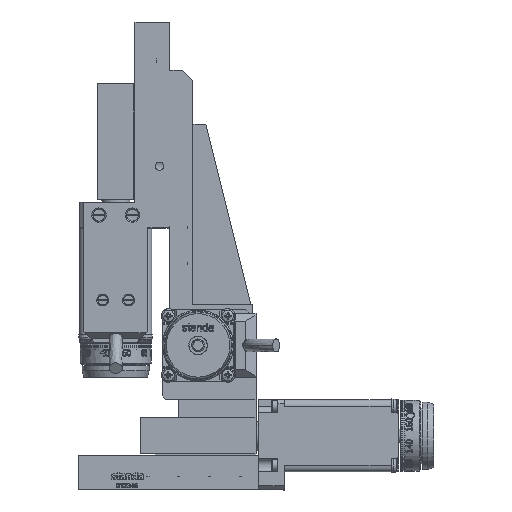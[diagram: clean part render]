
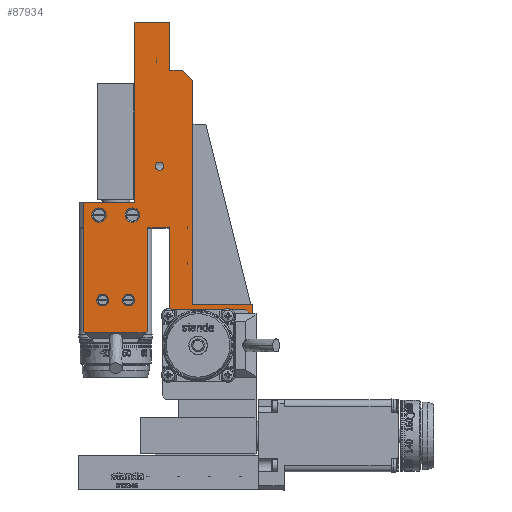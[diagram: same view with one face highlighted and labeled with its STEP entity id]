
A CAD part, top view. The second image highlights one B-rep face of the part: STEP entity #87934.
In plain terms, the highlighted planar face has unit normal (0, 0, 1).
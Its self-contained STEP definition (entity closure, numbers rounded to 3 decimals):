
#6713=LINE($,#115564,#13249);
#6765=LINE($,#115862,#13301);
#7026=LINE($,#118856,#13562);
#7383=LINE($,#120470,#13919);
#7393=LINE($,#120487,#13929);
#7401=LINE($,#120587,#13937);
#7404=LINE($,#120592,#13940);
#7406=LINE($,#120596,#13942);
#7408=LINE($,#120599,#13944);
#8753=LINE($,#195012,#15289);
#8783=LINE($,#195134,#15319);
#10865=LINE($,#274888,#17401);
#10893=LINE($,#275011,#17429);
#10900=LINE($,#275030,#17436);
#10901=LINE($,#275033,#17437);
#10902=LINE($,#275035,#17438);
#10903=LINE($,#275037,#17439);
#10904=LINE($,#275038,#17440);
#13249=VECTOR($,#96226,70.);
#13301=VECTOR($,#96398,13.5);
#13562=VECTOR($,#97719,18.75);
#13919=VECTOR($,#98468,23.619);
#13929=VECTOR($,#98480,8.5);
#13937=VECTOR($,#98532,50.);
#13940=VECTOR($,#98537,0.977);
#13942=VECTOR($,#98541,40.);
#13944=VECTOR($,#98545,0.977);
#15289=VECTOR($,#102094,20.);
#15319=VECTOR($,#102194,28.);
#17401=VECTOR($,#108182,4.);
#17429=VECTOR($,#108266,38.75);
#17436=VECTOR($,#108283,5.);
#17437=VECTOR($,#108286,5.657);
#17438=VECTOR($,#108287,9.);
#17439=VECTOR($,#108288,23.);
#17440=VECTOR($,#108289,87.);
#21468=PLANE($,#93737);
#22905=FACE_BOUND($,#31637,.T.);
#22906=FACE_BOUND($,#31638,.T.);
#22907=FACE_BOUND($,#31639,.T.);
#22908=FACE_BOUND($,#31640,.T.);
#22909=FACE_BOUND($,#31641,.T.);
#22910=FACE_BOUND($,#31642,.T.);
#31637=EDGE_LOOP($,(#75151));
#31638=EDGE_LOOP($,(#75152));
#31639=EDGE_LOOP($,(#75153));
#31640=EDGE_LOOP($,(#75154));
#31641=EDGE_LOOP($,(#75155));
#31642=EDGE_LOOP($,(#75156,#75157,#75158,#75159,#75160,#75161,#75162,#75163,
#75164,#75165,#75166,#75167,#75168,#75169,#75170,#75171,#75172,#75173));
#34005=CIRCLE($,#90398,1.621);
#34053=CIRCLE($,#90595,2.8);
#34054=CIRCLE($,#90597,2.8);
#34059=CIRCLE($,#90603,2.3);
#34064=CIRCLE($,#90609,2.3);
#36061=VERTEX_POINT($,#115561);
#36062=VERTEX_POINT($,#115563);
#36134=VERTEX_POINT($,#115861);
#36607=VERTEX_POINT($,#118853);
#36612=VERTEX_POINT($,#118901);
#36934=VERTEX_POINT($,#120466);
#36936=VERTEX_POINT($,#120469);
#36941=VERTEX_POINT($,#120484);
#36942=VERTEX_POINT($,#120486);
#36955=VERTEX_POINT($,#120524);
#36956=VERTEX_POINT($,#120527);
#36965=VERTEX_POINT($,#120554);
#36974=VERTEX_POINT($,#120581);
#36975=VERTEX_POINT($,#120584);
#36976=VERTEX_POINT($,#120586);
#36978=VERTEX_POINT($,#120595);
#38872=VERTEX_POINT($,#195131);
#38873=VERTEX_POINT($,#195133);
#41693=VERTEX_POINT($,#274887);
#41731=VERTEX_POINT($,#275028);
#41732=VERTEX_POINT($,#275032);
#41733=VERTEX_POINT($,#275034);
#41734=VERTEX_POINT($,#275036);
#44957=EDGE_CURVE($,#36061,#36062,#6713,.T.);
#45052=EDGE_CURVE($,#36134,#36062,#6765,.T.);
#45781=EDGE_CURVE($,#36134,#36607,#7026,.T.);
#45786=EDGE_CURVE($,#36612,#36612,#34005,.T.);
#46277=EDGE_CURVE($,#36936,#36934,#7383,.T.);
#46287=EDGE_CURVE($,#36942,#36941,#7393,.T.);
#46302=EDGE_CURVE($,#36955,#36955,#34053,.T.);
#46303=EDGE_CURVE($,#36956,#36956,#34054,.T.);
#46312=EDGE_CURVE($,#36965,#36965,#34059,.T.);
#46321=EDGE_CURVE($,#36974,#36974,#34064,.T.);
#46323=EDGE_CURVE($,#36975,#36976,#7401,.T.);
#46326=EDGE_CURVE($,#36936,#36975,#7404,.T.);
#46328=EDGE_CURVE($,#36942,#36978,#7406,.T.);
#46330=EDGE_CURVE($,#36978,#36934,#7408,.T.);
#49128=EDGE_CURVE($,#36061,#36976,#8753,.T.);
#49175=EDGE_CURVE($,#38872,#38873,#8783,.T.);
#53414=EDGE_CURVE($,#38873,#41693,#10865,.T.);
#53461=EDGE_CURVE($,#36941,#41693,#10893,.T.);
#53471=EDGE_CURVE($,#36607,#41731,#10900,.T.);
#53472=EDGE_CURVE($,#41731,#41732,#10901,.T.);
#53473=EDGE_CURVE($,#38872,#41733,#10902,.T.);
#53474=EDGE_CURVE($,#41734,#41733,#10903,.T.);
#53475=EDGE_CURVE($,#41732,#41734,#10904,.T.);
#75151=ORIENTED_EDGE($,*,*,#46321,.T.);
#75152=ORIENTED_EDGE($,*,*,#46312,.T.);
#75153=ORIENTED_EDGE($,*,*,#46303,.T.);
#75154=ORIENTED_EDGE($,*,*,#46302,.T.);
#75155=ORIENTED_EDGE($,*,*,#45786,.T.);
#75156=ORIENTED_EDGE($,*,*,#53472,.F.);
#75157=ORIENTED_EDGE($,*,*,#53471,.F.);
#75158=ORIENTED_EDGE($,*,*,#45781,.F.);
#75159=ORIENTED_EDGE($,*,*,#45052,.T.);
#75160=ORIENTED_EDGE($,*,*,#44957,.F.);
#75161=ORIENTED_EDGE($,*,*,#49128,.T.);
#75162=ORIENTED_EDGE($,*,*,#46323,.F.);
#75163=ORIENTED_EDGE($,*,*,#46326,.F.);
#75164=ORIENTED_EDGE($,*,*,#46277,.T.);
#75165=ORIENTED_EDGE($,*,*,#46330,.F.);
#75166=ORIENTED_EDGE($,*,*,#46328,.F.);
#75167=ORIENTED_EDGE($,*,*,#46287,.T.);
#75168=ORIENTED_EDGE($,*,*,#53461,.T.);
#75169=ORIENTED_EDGE($,*,*,#53414,.F.);
#75170=ORIENTED_EDGE($,*,*,#49175,.F.);
#75171=ORIENTED_EDGE($,*,*,#53473,.T.);
#75172=ORIENTED_EDGE($,*,*,#53474,.F.);
#75173=ORIENTED_EDGE($,*,*,#53475,.F.);
#87934=ADVANCED_FACE($,(#22905,#22906,#22907,#22908,#22909,#22910),#21468,
 .T.);
#90398=AXIS2_PLACEMENT_3D($,#118902,#97732,#97733);
#90595=AXIS2_PLACEMENT_3D($,#120525,#98499,#98500);
#90597=AXIS2_PLACEMENT_3D($,#120528,#98503,#98504);
#90603=AXIS2_PLACEMENT_3D($,#120555,#98515,#98516);
#90609=AXIS2_PLACEMENT_3D($,#120582,#98527,#98528);
#93737=AXIS2_PLACEMENT_3D($,#275031,#108284,#108285);
#96226=DIRECTION($,(0.,1.,0.));
#96398=DIRECTION($,(-1.,0.,0.));
#97719=DIRECTION($,(0.,-1.,0.));
#97732=DIRECTION('center_axis',(0.,0.,
-1.));
#97733=DIRECTION('ref_axis',(0.,-1.,0.));
#98468=DIRECTION($,(1.,0.,0.));
#98480=DIRECTION($,(1.,0.,0.));
#98499=DIRECTION('center_axis',(0.,0.,
-1.));
#98500=DIRECTION('ref_axis',(0.,-1.,0.));
#98503=DIRECTION('center_axis',(0.,0.,
-1.));
#98504=DIRECTION('ref_axis',(0.,-1.,0.));
#98515=DIRECTION('center_axis',(0.,0.,
-1.));
#98516=DIRECTION('ref_axis',(0.,-1.,0.));
#98527=DIRECTION('center_axis',(0.,0.,
-1.));
#98528=DIRECTION('ref_axis',(0.,-1.,0.));
#98532=DIRECTION($,(0.,1.,0.));
#98537=DIRECTION($,(-0.707,0.707,0.));
#98541=DIRECTION($,(0.,-1.,0.));
#98545=DIRECTION($,(-0.707,-0.707,0.));
#102094=DIRECTION($,(-1.,0.,0.));
#102194=DIRECTION($,(-1.,0.,0.));
#108182=DIRECTION($,(-1.,0.,0.));
#108266=DIRECTION($,(0.,-1.,0.));
#108283=DIRECTION($,(1.,0.,0.));
#108284=DIRECTION('center_axis',(0.,0.,
1.));
#108285=DIRECTION('ref_axis',(0.,-1.,0.));
#108286=DIRECTION($,(0.707,-0.707,0.));
#108287=DIRECTION($,(0.,1.,0.));
#108288=DIRECTION($,(1.,0.,0.));
#108289=DIRECTION($,(0.,-1.,0.));
#115561=CARTESIAN_POINT('',(-27.575,64.812,28.904));
#115563=CARTESIAN_POINT('',(-27.575,134.812,28.904));
#115564=CARTESIAN_POINT($,(-27.575,64.812,28.904));
#115861=CARTESIAN_POINT('',(-14.075,134.812,28.904));
#115862=CARTESIAN_POINT($,(-27.575,134.812,28.904));
#118853=CARTESIAN_POINT('',(-14.075,116.062,28.904));
#118856=CARTESIAN_POINT($,(-14.075,126.812,28.904));
#118901=CARTESIAN_POINT('',(-18.075,77.191,28.904));
#118902=CARTESIAN_POINT('Origin',(-18.075,78.812,28.904));
#120466=CARTESIAN_POINT('',(-23.265,14.122,28.904));
#120469=CARTESIAN_POINT('',(-46.884,14.122,28.904));
#120470=CARTESIAN_POINT($,(-35.075,14.122,28.904));
#120484=CARTESIAN_POINT('',(-14.075,54.812,28.904));
#120486=CARTESIAN_POINT('',(-22.575,54.812,28.904));
#120487=CARTESIAN_POINT($,(-22.575,54.812,28.904));
#120524=CARTESIAN_POINT('',(-41.575,57.012,28.904));
#120525=CARTESIAN_POINT('Origin',(-41.575,59.812,28.904));
#120527=CARTESIAN_POINT('',(-28.575,57.012,28.904));
#120528=CARTESIAN_POINT('Origin',(-28.575,59.812,28.904));
#120554=CARTESIAN_POINT('',(-40.075,24.512,28.904));
#120555=CARTESIAN_POINT('Origin',(-40.075,26.812,28.904));
#120581=CARTESIAN_POINT('',(-30.075,24.512,28.904));
#120582=CARTESIAN_POINT('Origin',(-30.075,26.812,28.904));
#120584=CARTESIAN_POINT('',(-47.575,14.812,28.904));
#120586=CARTESIAN_POINT('',(-47.575,64.812,28.904));
#120587=CARTESIAN_POINT($,(-47.575,64.812,28.904));
#120592=CARTESIAN_POINT($,(-56.2,23.437,28.904));
#120595=CARTESIAN_POINT('',(-22.575,14.812,28.904));
#120596=CARTESIAN_POINT($,(-22.575,64.812,28.904));
#120599=CARTESIAN_POINT($,(-13.95,23.437,28.904));
#195012=CARTESIAN_POINT($,(-35.075,64.812,28.904));
#195131=CARTESIAN_POINT('',(17.925,16.062,28.904));
#195133=CARTESIAN_POINT('',(-10.075,16.062,28.904));
#195134=CARTESIAN_POINT($,(17.925,16.062,28.904));
#274887=CARTESIAN_POINT('',(-14.075,16.062,28.904));
#274888=CARTESIAN_POINT($,(17.925,16.062,28.904));
#275011=CARTESIAN_POINT($,(-14.075,116.062,28.904));
#275028=CARTESIAN_POINT('',(-9.075,116.062,28.904));
#275030=CARTESIAN_POINT($,(-14.075,116.062,28.904));
#275031=CARTESIAN_POINT('Origin',(-14.075,116.062,28.904));
#275032=CARTESIAN_POINT('',(-5.075,112.062,28.904));
#275033=CARTESIAN_POINT($,(-9.325,116.312,28.904));
#275034=CARTESIAN_POINT('',(17.925,25.062,28.904));
#275035=CARTESIAN_POINT($,(17.925,16.062,28.904));
#275036=CARTESIAN_POINT('',(-5.075,25.062,28.904));
#275037=CARTESIAN_POINT($,(17.925,25.062,28.904));
#275038=CARTESIAN_POINT($,(-5.075,116.062,28.904));
